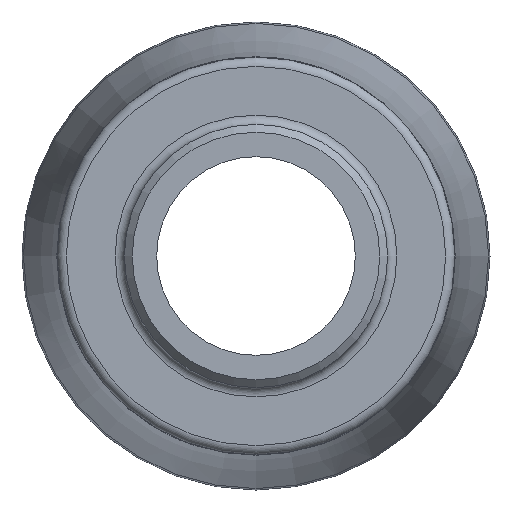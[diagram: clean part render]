
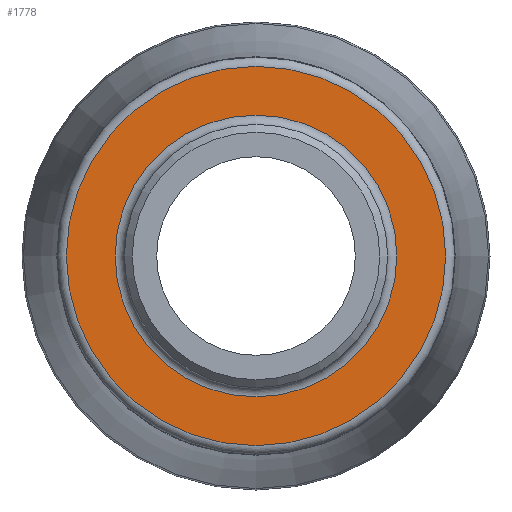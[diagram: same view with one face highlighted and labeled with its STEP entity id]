
A CAD part, left-side view. The second image highlights one B-rep face of the part: STEP entity #1778.
In plain terms, the highlighted planar face has unit normal (-1, 0, 0).
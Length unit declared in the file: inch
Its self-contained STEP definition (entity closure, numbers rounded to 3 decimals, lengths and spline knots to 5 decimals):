
#93=FACE_BOUND('',#322,.T.);
#105=PLANE('',#1973);
#219=FACE_OUTER_BOUND('',#321,.T.);
#321=EDGE_LOOP('',(#1336,#1337));
#322=EDGE_LOOP('',(#1338,#1339));
#639=CIRCLE('',#1971,0.55691);
#640=CIRCLE('',#1972,0.55691);
#641=CIRCLE('',#1974,0.74983);
#642=CIRCLE('',#1975,0.74983);
#770=VERTEX_POINT('',#3166);
#771=VERTEX_POINT('',#3168);
#772=VERTEX_POINT('',#3172);
#773=VERTEX_POINT('',#3173);
#976=EDGE_CURVE('',#770,#771,#639,.T.);
#977=EDGE_CURVE('',#771,#770,#640,.T.);
#978=EDGE_CURVE('',#772,#773,#641,.T.);
#979=EDGE_CURVE('',#773,#772,#642,.T.);
#1336=ORIENTED_EDGE('',*,*,#978,.F.);
#1337=ORIENTED_EDGE('',*,*,#979,.F.);
#1338=ORIENTED_EDGE('',*,*,#977,.F.);
#1339=ORIENTED_EDGE('',*,*,#976,.F.);
#1778=ADVANCED_FACE('',(#219,#93),#105,.T.);
#1971=AXIS2_PLACEMENT_3D('',#3169,#2313,#2314);
#1972=AXIS2_PLACEMENT_3D('',#3170,#2315,#2316);
#1973=AXIS2_PLACEMENT_3D('',#3171,#2317,#2318);
#1974=AXIS2_PLACEMENT_3D('',#3174,#2319,#2320);
#1975=AXIS2_PLACEMENT_3D('',#3175,#2321,#2322);
#2313=DIRECTION('center_axis',(-1.,0.,0.));
#2314=DIRECTION('ref_axis',(0.,-1.,0.));
#2315=DIRECTION('center_axis',(-1.,0.,0.));
#2316=DIRECTION('ref_axis',(0.,-1.,0.));
#2317=DIRECTION('center_axis',(-1.,0.,0.));
#2318=DIRECTION('ref_axis',(0.,0.,1.));
#2319=DIRECTION('center_axis',(1.,0.,0.));
#2320=DIRECTION('ref_axis',(0.,-1.,0.));
#2321=DIRECTION('center_axis',(1.,0.,0.));
#2322=DIRECTION('ref_axis',(0.,-1.,0.));
#3166=CARTESIAN_POINT('',(0.67,0.,0.55691));
#3168=CARTESIAN_POINT('',(0.67,0.55691,0.));
#3169=CARTESIAN_POINT('Origin',(0.67,0.,0.));
#3170=CARTESIAN_POINT('Origin',(0.67,0.,0.));
#3171=CARTESIAN_POINT('Origin',(0.67,0.78625,0.));
#3172=CARTESIAN_POINT('',(0.67,0.74983,0.));
#3173=CARTESIAN_POINT('',(0.67,0.,0.74983));
#3174=CARTESIAN_POINT('Origin',(0.67,0.,0.));
#3175=CARTESIAN_POINT('Origin',(0.67,0.,0.));
